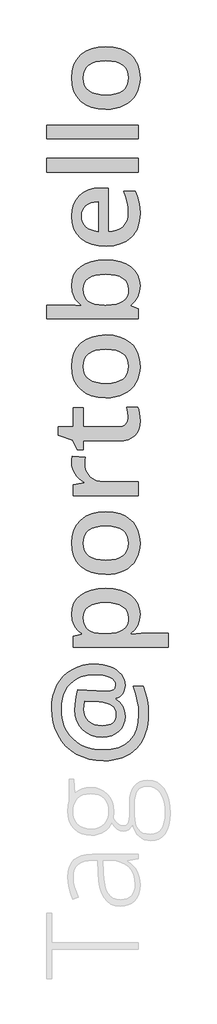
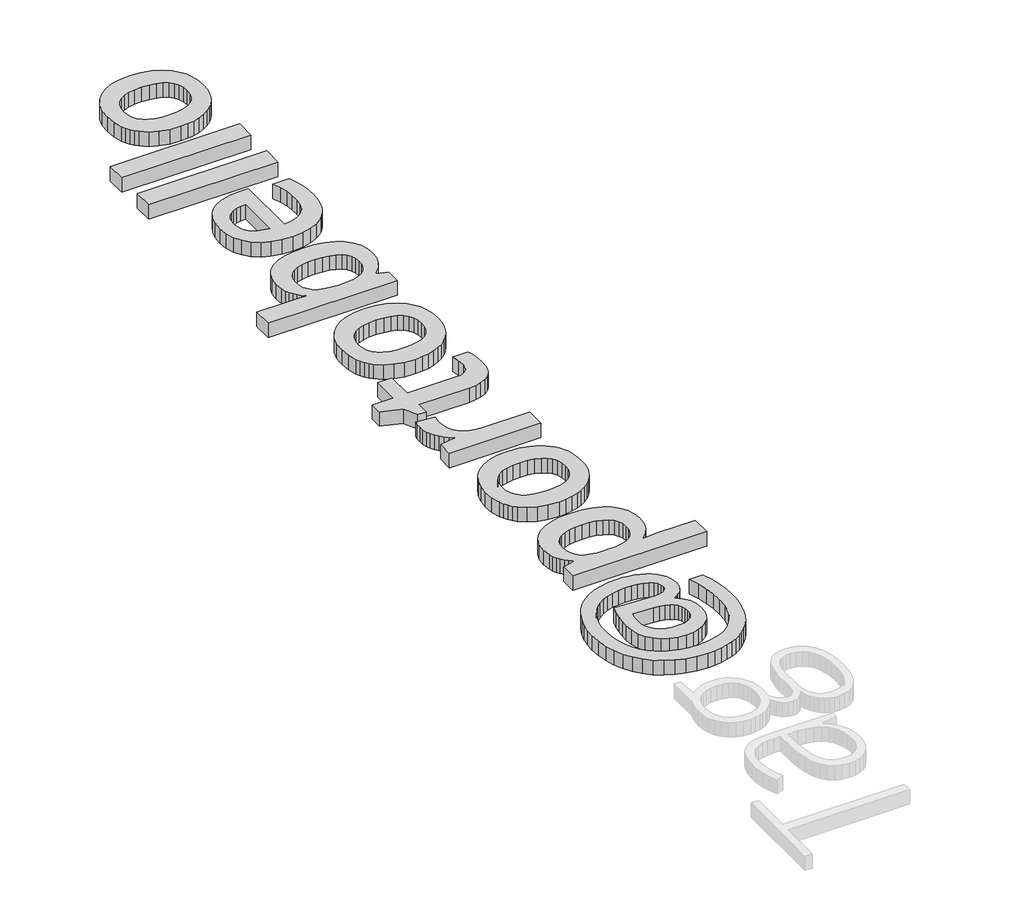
# One storey, part 4 of 10: 1 proxy.
"""IFC4 building model written with IfcOpenShell, lengths in millimetres."""

from ifc_helpers import new_model, si_unit, origin, origin_with_axes, place, context, project, spatial, polyline, outline, extrude, element, save

model = new_model("IFC4")

# Units and contexts
model_context = context("Model", 3, world=origin())
ifc_project = project(units=[si_unit("LENGTHUNIT", "METRE", prefix="MILLI")], contexts=[model_context])

# Site, building, storey
site = spatial("IfcSite", under=ifc_project)
building = spatial("IfcBuilding", under=site)
storey = spatial("IfcBuildingStorey", under=building, Name="PORTOBELLO - SHOWROOM", Elevation=0.0)

# Proxy
placement = place(None, origin())
element("IfcBuildingElementProxy", 1, Name="80mm OpenSans Bold", ObjectType="80mm OpenSans Bold", at=placement, inside=storey, context=model_context, shape_type="SweptSolid", body=[
    extrude(outline(polyline([(159082.6675229, -9131.2902882), (159120.7731376, -9132.8376481), (159157.2112091, -9137.4797277), (159191.9817375, -9145.2165271), (159225.0847226, -9156.0480462), (159255.5662098, -9169.6888497), (159282.4722441, -9185.8535023), (159305.8028254, -9204.542004), (159325.5579539, -9225.7543549), (159341.2794306, -9249.0999592), (159352.5090568, -9274.1882211), (159359.2468326, -9301.0191408), (159361.4927578, -9329.5927182), (159355.7840515, -9370.2146706), (159348.6481686, -9388.3623475), (159338.6579326, -9405.0678249), (159326.2339849, -9419.7452093), (159311.796967, -9431.8086072), (159295.3468791, -9441.2580184), (159276.883721, -9448.0934431), (159276.883721, -9454.8237074), (159313.9001746, -9484.9897134), (159340.3404986, -9521.6456171), (159356.204693, -9564.0102272), (159361.4927578, -9611.3023521), (159357.9398393, -9653.9674204), (159347.2810837, -9691.8251571), (159329.516491, -9724.8755621), (159304.6460612, -9753.1186354), (159273.7063753, -9775.728117), (159237.734014, -9791.8777467), (159196.7289774, -9801.5675246), (159150.6912656, -9804.7974505), (159097.5477166, -9800.5159208), (159049.6471637, -9787.6713316), (159006.9896069, -9766.2636829), (158969.5750462, -9736.2929747), (158939.1311163, -9699.1112691), (158917.3854521, -9656.070628), (158904.3380536, -9607.1710515), (158899.9889207, -9552.4125396), (158901.8217159, -9508.0949511), (158907.3201015, -9459.2704891), (158916.0634359, -9411.0469437), (158927.6310776, -9368.5321045), (159178.8141556, -9380.7908002), (159191.5535845, -9380.7908002), (159229.4113211, -9377.1853014), (159256.4525616, -9366.3688053), (159265.9169957, -9358.2564331), (159272.6773059, -9348.3413116), (159278.0855539, -9323.1028205), (159274.6227729, -9302.3486685), (159264.2344297, -9283.8329302), (159246.9205243, -9267.5556058), (159222.6810568, -9253.5166951), (159193.07841, -9242.2119543), (159159.6749666, -9234.1371394), (159122.4707266, -9229.2922505), (159081.46569, -9227.6772875), (159036.3744215, -9230.0959763), (158994.1224833, -9237.3520425), (158954.7098754, -9249.4454861), (158918.1365977, -9266.3763072), (158884.9960552, -9287.768933), (158855.881653, -9313.2477907), (158830.793391, -9342.8128802), (158809.7312692, -9376.4642017), (158793.0633491, -9413.4656324), (158781.1576918, -9453.0810497), (158774.0142975, -9495.3104535), (158771.633166, -9540.1538439), (158774.6227254, -9597.1282353), (158783.5914035, -9650.2717842), (158798.5392003, -9699.5844908), (158819.4661158, -9745.0663549), (158845.9439971, -9786.0563686), (158877.5446911, -9821.8935237), (158914.268198, -9852.5778201), (158956.1145176, -9878.109258), (159002.3024586, -9898.1948905), (159052.0508296, -9912.5417708), (159105.3596305, -9921.149899), (159162.2288615, -9924.0192751), (159236.4044864, -9918.6636072), (159301.4912498, -9902.5966035), (159330.6263086, -9890.5463507), (159357.489152, -9875.818264), (159382.07978, -9858.4123433), (159404.3981927, -9838.3285887), (159424.2566037, -9815.7435193), (159441.4672265, -9790.8336544), (159456.0300612, -9763.598994), (159467.9451078, -9734.039538), (159483.8318365, -9667.9462394), (159489.1274128, -9592.5537588), (159486.032693, -9530.8396389), (159476.7485338, -9467.8035028), (159461.2749351, -9403.4453505), (159439.6118969, -9337.765182), (159529.7493651, -9337.765182), (159550.3607995, -9396.9854986), (159565.0832526, -9458.789756), (159573.9167245, -9523.1779541), (159576.8612152, -9590.1500929), (159575.165504, -9639.7651356), (159570.0783707, -9686.5746495), (159561.5998151, -9730.5786348), (159549.7298372, -9771.7770913), (159534.4684372, -9810.1700192), (159515.8156148, -9845.7574184), (159493.7713703, -9878.5392888), (159468.3357035, -9908.5156306), (159439.8654086, -9935.3033594), (159408.7172797, -9958.5193911), (159374.8913169, -9978.1637255), (159338.3875202, -9994.2363628), (159299.2058895, -10006.7373029), (159257.3464248, -10015.6665459), (159212.8091262, -10021.0240917), (159165.5939936, -10022.8099402), (159096.5261586, -10018.949052), (159031.3793035, -10007.3663874), (158970.1534283, -9988.0619463), (158912.8485329, -9961.0357287), (158860.7490762, -9927.1590636), (158815.1395173, -9887.3032797), (158776.0198561, -9841.4683772), (158743.3900927, -9789.6543559), (158717.6783799, -9733.0330029), (158699.3128707, -9672.7761054), (158688.2935652, -9608.8836634), (158684.6204634, -9541.3556768), (158687.6851373, -9483.1343838), (158696.8791591, -9428.1730626), (158712.2025287, -9376.4717132), (158733.6552461, -9328.0303355), (158760.7716011, -9283.8479531), (158793.0858835, -9244.9235898), (158830.5980931, -9211.2572454), (158873.3082301, -9182.84892), (158920.3750114, -9160.2920186), (158970.957154, -9144.1799462), (159025.0546578, -9134.5127027), (159082.6675229, -9131.2902882)]), holes=[polyline([(159152.6141982, -9699.5168877), (159182.0215472, -9697.9282148), (159207.5079164, -9693.1621962), (159229.0733056, -9685.2188318), (159246.717715, -9674.0981216), (159260.4411445, -9659.8000658), (159270.2435942, -9642.3246641), (159276.125064, -9621.6719167), (159278.0855539, -9597.8418236), (159275.6217965, -9572.5582637), (159268.2305241, -9550.309332), (159255.9117368, -9531.0950284), (159238.6654345, -9514.9153528), (159216.4916173, -9501.7703054), (159189.3902852, -9491.659886), (159157.3614382, -9484.5840948), (159120.4050763, -9480.5429316), (158991.808955, -9473.8126673), (158984.9585074, -9510.1080212), (158982.6750249, -9548.8070409), (158985.5368895, -9582.420805), (158994.1224833, -9612.1135894), (159008.4318064, -9637.8853938), (159028.4648587, -9659.7362184), (159053.3953801, -9677.1402612), (159082.3971105, -9689.5717204), (159115.4700499, -9697.0305958), (159152.6141982, -9699.5168877)])]), origin_with_axes(), (0.0, 0.0, 1.0), 100.0),
    extrude(outline(polyline([(159499.943909, -8672.6708501), (159494.7459816, -8726.2275291), (159479.1521996, -8773.4445395), (159453.162563, -8814.3218814), (159416.7770717, -8848.8595546), (159416.7770717, -8856.5512852), (159510.7604052, -8848.8595546), (159761.46275, -8848.8595546), (159761.46275, -8977.6960424), (158884.6054595, -8977.6960424), (158884.6054595, -8873.3769459), (158961.7631323, -8855.3494523), (158961.7631323, -8848.8595546), (158940.073804, -8833.0291617), (158921.2763861, -8815.3434393), (158905.3708787, -8795.8023874), (158892.3572817, -8774.4060059), (158882.2355952, -8751.1542948), (158875.0058191, -8726.0472542), (158869.2219982, -8670.2671843), (158874.3823683, -8617.4616508), (158889.8634785, -8570.815511), (158915.6653287, -8530.3287649), (158951.7879191, -8496.0014125), (158997.2247145, -8468.6597138), (159050.9691799, -8449.129929), (159113.0213153, -8437.4120581), (159183.3811207, -8433.5061012), (159253.9136896, -8437.4796612), (159316.2437488, -8449.4003414), (159370.3712985, -8469.2681417), (159416.2963385, -8497.0830621), (159452.8921506, -8531.8986592), (159479.0320164, -8572.7684895), (159494.7159358, -8619.6925532), (159499.943909, -8672.6708501)]), holes=[polyline([(158976.9062269, -8704.1588723), (158979.7004884, -8739.2448818), (158988.083273, -8769.2681702), (159002.0545805, -8794.2287374), (159021.6144111, -8814.1265835), (159047.3035896, -8829.3222584), (159079.6629406, -8840.1763118), (159118.6924644, -8846.6887439), (159164.3921607, -8848.8595546), (159183.3811207, -8848.8595546), (159234.7294317, -8846.7112783), (159278.4461038, -8840.2664493), (159314.5311369, -8829.5250677), (159342.984531, -8814.4871334), (159364.5424088, -8794.5667529), (159379.940893, -8769.1780327), (159389.1799835, -8738.3209728), (159392.2596803, -8701.9955731), (159388.8494794, -8671.07091), (159378.6188768, -8643.9169977), (159361.5678724, -8620.5338362), (159337.6964662, -8600.9214254), (159307.5304602, -8585.4102694), (159271.5956562, -8574.3308723), (159229.8920543, -8567.683234), (159182.4196544, -8565.4673546), (159134.7895139, -8567.6682111), (159093.33379, -8574.2707807), (159058.0524826, -8585.2750632), (159028.9455919, -8600.6810588), (159006.1783697, -8620.3535613), (158989.9160681, -8644.1573643), (158980.1586872, -8672.092468), (158976.9062269, -8704.1588723)])]), origin_with_axes(), (0.0, 0.0, 1.0), 100.0),
    extrude(outline(polyline([(159183.3811207, -7725.3861511), (159253.9136896, -7730.1934827), (159316.2437488, -7744.6154777), (159370.3712985, -7768.6521358), (159416.2963385, -7802.3034573), (159435.9012378, -7822.4754715), (159452.8921506, -7844.5328611), (159467.2690768, -7868.4756261), (159479.0320164, -7894.3037665), (159494.7159358, -7951.6161733), (159499.943909, -8016.4700817), (159497.5327317, -8058.1211035), (159490.2991999, -8097.263299), (159478.2433135, -8133.8966684), (159461.3650726, -8168.0212115), (159439.9874697, -8198.9984548), (159414.4334975, -8226.1899243), (159384.7031559, -8249.5956203), (159350.7964449, -8269.2155425), (159313.3368155, -8284.7266985), (159272.9477183, -8295.8060956), (159229.6291533, -8302.4537339), (159183.3811207, -8304.6696133), (159113.411911, -8299.899839), (159051.5700964, -8285.5905159), (158997.8556768, -8261.7416441), (158952.2686523, -8228.3532236), (158932.8045927, -8208.2957591), (158915.9357411, -8186.2815603), (158901.6620975, -8162.3106274), (158889.9836618, -8136.3829602), (158874.4124141, -8078.6574233), (158869.2219982, -8013.1049496), (158874.5401089, -7950.2115311), (158890.4944407, -7894.213629), (158917.0849939, -7845.1112432), (158954.3117682, -7802.9043737), (159000.5372665, -7768.9901513), (159054.1239913, -7744.7657068), (159115.0719427, -7730.23104), (159183.3811207, -7725.3861511)]), holes=[polyline([(159183.3811207, -8171.9872601), (159232.3370331, -8169.5235027), (159274.7654905, -8162.1322303), (159310.666493, -8149.813443), (159340.0400404, -8132.5671407), (159362.8861329, -8110.3933236), (159379.2047703, -8083.2919915), (159388.9959528, -8051.2631444), (159392.2596803, -8014.3067825), (159388.9959528, -7977.688436), (159379.2047703, -7945.9525358), (159362.8861329, -7919.0990817), (159340.0400404, -7897.1280738), (159310.666493, -7880.0395121), (159274.7654905, -7867.8333967), (159232.3370331, -7860.5097274), (159183.3811207, -7858.0685043), (159134.9885675, -7860.5247503), (159093.0483547, -7867.8934883), (159057.5604823, -7880.1747183), (159028.5249504, -7897.3684404), (159005.9417588, -7919.4746545), (158989.8109078, -7946.4933606), (158980.1323971, -7978.4245587), (158976.9062269, -8015.2682488), (158980.2413132, -8053.6592988), (158990.2465722, -8086.3867112), (159006.9220038, -8113.450486), (159030.2676081, -8134.8506233), (159059.8477206, -8151.0979019), (159095.2266768, -8162.7031009), (159136.4044769, -8169.6662203), (159183.3811207, -8171.9872601)])]), origin_with_axes(), (0.0, 0.0, 1.0), 100.0),
    extrude(outline(polyline([(158869.2219982, -7274.6988102), (158870.6041061, -7240.0259307), (158874.7504296, -7211.9631323), (158994.9337205, -7224.221828), (158989.8860223, -7251.6236183), (158988.2034563, -7279.986875), (158991.3432447, -7316.0418622), (159000.7626102, -7348.4913508), (159016.4615525, -7377.3353406), (159038.4400719, -7402.5738317), (159065.4362436, -7423.0801057), (159096.1881431, -7437.7274443), (159130.6957705, -7446.5158474), (159168.9591258, -7449.4453152), (159484.5604477, -7449.4453152), (159484.5604477, -7578.281803), (158884.6054595, -7578.281803), (158884.6054595, -7477.3278387), (158986.7612568, -7460.2618113), (158986.7612568, -7453.7719136), (158961.1171471, -7437.9753223), (158938.2672989, -7419.9102714), (158918.2117122, -7399.5767609), (158900.950387, -7376.9747907), (158887.0692169, -7352.780392), (158877.1540954, -7327.6695956), (158871.2050225, -7301.6424017), (158869.2219982, -7274.6988102)])), origin_with_axes(), (0.0, 0.0, 1.0), 100.0),
    extrude(outline(polyline([(159392.2596803, -6855.739858), (159388.5940899, -6807.8468166), (159377.5973188, -6759.8335919), (159477.3494503, -6759.8335919), (159486.1829222, -6784.5913498), (159493.4540113, -6815.5986389), (159498.3214345, -6850.33161), (159499.943909, -6886.2664139), (159496.9092809, -6929.6450705), (159487.8053966, -6967.2399062), (159472.6322561, -6999.050921), (159451.3898594, -7025.0781149), (159424.0782066, -7045.321488), (159390.6972975, -7059.7810402), (159351.2471323, -7068.4567715), (159305.7277109, -7071.3486819), (158976.9062269, -7071.3486819), (158976.9062269, -7154.9962524), (158922.823746, -7154.9962524), (158878.1155618, -7065.3395174), (158746.1543084, -7021.3524329), (158746.1543084, -6941.7910943), (158884.6054595, -6941.7910943), (158884.6054595, -6766.083123), (158976.9062269, -6766.083123), (158976.9062269, -6941.7910943), (159301.4011124, -6941.7910943), (159323.0866849, -6940.3113376), (159341.7526523, -6935.8720673), (159357.3990145, -6928.4732834), (159370.0257715, -6918.114986), (159379.7531066, -6905.3379999), (159386.7012031, -6890.6831499), (159392.2596803, -6855.739858)])), origin_with_axes(), (0.0, 0.0, 1.0), 100.0),
    extrude(outline(polyline([(159183.3811207, -6094.73926), (159253.9136896, -6099.5465916), (159316.2437488, -6113.9685865), (159370.3712985, -6138.0052447), (159416.2963385, -6171.6565662), (159435.9012378, -6191.8285804), (159452.8921506, -6213.88597), (159467.2690768, -6237.828735), (159479.0320164, -6263.6568754), (159494.7159358, -6320.9692822), (159499.943909, -6385.8231906), (159497.5327317, -6427.4742123), (159490.2991999, -6466.6164079), (159478.2433135, -6503.2497772), (159461.3650726, -6537.3743204), (159439.9874697, -6568.3515636), (159414.4334975, -6595.5430332), (159384.7031559, -6618.9487291), (159350.7964449, -6638.5686514), (159313.3368155, -6654.0798073), (159272.9477183, -6665.1592045), (159229.6291533, -6671.8068428), (159183.3811207, -6674.0227222), (159113.411911, -6669.2529478), (159051.5700964, -6654.9436247), (158997.8556768, -6631.094753), (158952.2686523, -6597.7063324), (158932.8045927, -6577.6488679), (158915.9357411, -6555.6346692), (158901.6620975, -6531.6637362), (158889.9836618, -6505.7360691), (158874.4124141, -6448.0105322), (158869.2219982, -6382.4580584), (158874.5401089, -6319.56464), (158890.4944407, -6263.5667379), (158917.0849939, -6214.4643521), (158954.3117682, -6172.2574826), (159000.5372665, -6138.3432602), (159054.1239913, -6114.1188156), (159115.0719427, -6099.5841489), (159183.3811207, -6094.73926)]), holes=[polyline([(159183.3811207, -6541.340369), (159232.3370331, -6538.8766115), (159274.7654905, -6531.4853392), (159310.666493, -6519.1665518), (159340.0400404, -6501.9202496), (159362.8861329, -6479.7464324), (159379.2047703, -6452.6451003), (159388.9959528, -6420.6162533), (159392.2596803, -6383.6598913), (159388.9959528, -6347.0415449), (159379.2047703, -6315.3056446), (159362.8861329, -6288.4521906), (159340.0400404, -6266.4811827), (159310.666493, -6249.392621), (159274.7654905, -6237.1865055), (159232.3370331, -6229.8628362), (159183.3811207, -6227.4216131), (159134.9885675, -6229.8778591), (159093.0483547, -6237.2465972), (159057.5604823, -6249.5278272), (159028.5249504, -6266.7215493), (159005.9417588, -6288.8277633), (158989.8109078, -6315.8464694), (158980.1323971, -6347.7776675), (158976.9062269, -6384.6213577), (158980.2413132, -6423.0124076), (158990.2465722, -6455.7398201), (159006.9220038, -6482.8035949), (159030.2676081, -6504.2037321), (159059.8477206, -6520.4510108), (159095.2266768, -6532.0562098), (159136.4044769, -6539.0193292), (159183.3811207, -6541.340369)])]), origin_with_axes(), (0.0, 0.0, 1.0), 100.0),
    extrude(outline(polyline([(158869.2219982, -5639.7253206), (158874.3823683, -5586.9197871), (158889.8634785, -5540.2736473), (158915.6653287, -5499.7869012), (158951.7879191, -5465.4595487), (158997.2247145, -5438.1178501), (159050.9691799, -5418.5880653), (159113.0213153, -5406.8701944), (159183.3811207, -5402.9642375), (159254.1089874, -5406.9152632), (159316.544207, -5418.7683402), (159370.6867796, -5438.5234687), (159416.5367051, -5466.1806485), (159453.0273568, -5500.8685508), (159479.092108, -5541.7158468), (159494.7309587, -5588.7225365), (159499.943909, -5641.8886198), (159494.7459816, -5695.5504592), (159479.1521996, -5742.8425842), (159453.162563, -5783.7649947), (159416.7770717, -5818.3176909), (159416.7770717, -5826.9708878), (159484.5604477, -5850.5268128), (159484.5604477, -5947.1541787), (158638.4700797, -5947.1541787), (158638.4700797, -5818.3176909), (158838.4550758, -5818.3176909), (158904.4357025, -5820.4809901), (158960.0805662, -5823.6057557), (158960.0805662, -5818.3176909), (158938.7855893, -5802.2769773), (158920.3299427, -5784.4410257), (158904.7136263, -5764.8098363), (158891.9366402, -5743.383409), (158881.9989844, -5720.1617437), (158874.9006587, -5695.1448406), (158869.2219982, -5639.7253206)]), holes=[polyline([(158976.9062269, -5673.6170086), (158979.7530686, -5709.1612169), (158988.2935937, -5739.3572687), (159002.5278022, -5764.2051641), (159022.4556942, -5783.7049031), (159049.0537587, -5798.4874479), (159083.2984852, -5809.1837608), (159125.1898735, -5815.7938418), (159174.7279238, -5818.3176909), (159183.3811207, -5818.3176909), (159234.7294317, -5816.1694145), (159278.4461038, -5809.7245856), (159314.5311369, -5798.9832039), (159342.984531, -5783.9452697), (159364.5424088, -5764.0248892), (159379.940893, -5738.636169), (159389.1799835, -5707.779109), (159392.2596803, -5671.4537094), (159388.8870367, -5639.9431528), (159378.7691059, -5612.4737593), (159361.9058879, -5589.0455291), (159338.2973827, -5569.658462), (159308.3191631, -5554.4627871), (159272.3468018, -5543.6087337), (159230.3802989, -5537.0963016), (159182.4196544, -5534.9254909), (159134.2524448, -5537.0925459), (159092.5075299, -5543.5937107), (159057.1849095, -5554.4289856), (159028.2845838, -5569.5983703), (159005.8065526, -5589.101865), (158989.7508161, -5612.9394696), (158980.1173742, -5641.1111841), (158976.9062269, -5673.6170086)])]), origin_with_axes(), (0.0, 0.0, 1.0), 100.0),
    extrude(outline(polyline([(159499.943909, -4974.1502555), (159494.768516, -5040.9646538), (159479.2423371, -5100.0722985), (159467.5977029, -5126.7360883), (159453.3653723, -5151.4731898), (159436.5453451, -5174.2836028), (159417.1376215, -5195.1673275), (159371.8210094, -5230.0279933), (159318.6774604, -5254.9284689), (159257.7069747, -5269.8687542), (159188.9095521, -5274.8488493), (159118.3769832, -5270.2293041), (159055.8065574, -5256.3706684), (159001.1982746, -5233.2729421), (158954.5521348, -5200.9361254), (158917.2202001, -5160.5169824), (158890.5545324, -5113.1722772), (158874.5551318, -5058.9020099), (158869.2219982, -4997.7061805), (158873.7138487, -4940.9871786), (158887.1894002, -4890.5327308), (158909.6486527, -4846.342837), (158941.0916062, -4808.4174973), (158980.4065653, -4777.9735674), (159026.4818344, -4756.2279032), (159079.3174137, -4743.1805047), (159138.9133031, -4738.8313719), (159207.6581455, -4738.8313719), (159207.6581455, -5142.1664962), (159249.5570453, -5138.2004476), (159286.3181094, -5128.9463342), (159317.9413378, -5114.404156), (159344.4267305, -5094.573913), (159365.3536461, -5069.816155), (159380.3014429, -5040.4914321), (159389.2701209, -5006.599744), (159392.2596803, -4968.1410909), (159389.7358312, -4916.3721384), (159382.1642839, -4868.2687762), (159368.7037553, -4820.2855973), (159348.5129624, -4768.8771946), (159456.4375577, -4768.8771946), (159476.7485338, -4816.259457), (159490.0888791, -4864.1825443), (159497.4801515, -4915.7712219), (159499.943909, -4974.1502555)]), holes=[polyline([(158961.5227657, -4997.9465471), (158963.9790117, -5026.9633004), (158971.3477497, -5052.9604485), (158983.6289797, -5075.9379914), (159000.8227018, -5095.8959292), (159022.7185951, -5112.4887348), (159049.1063389, -5125.3708813), (159079.9859332, -5134.5423687), (159115.357378, -5140.0031969), (159115.357378, -4865.5045605), (159079.7906354, -4868.216196), (159048.8058807, -4875.1492696), (159022.403114, -4886.3037813), (159000.5823352, -4901.6797311), (158983.4937735, -4920.8114087), (158971.2876581, -4943.2331039), (158963.9639888, -4968.9448167), (158961.5227657, -4997.9465471)])]), origin_with_axes(), (0.0, 0.0, 1.0), 100.0),
    extrude(outline(polyline([(159484.5604477, -4465.0538352), (159484.5604477, -4593.890323), (158638.4700797, -4593.890323), (158638.4700797, -4465.0538352), (159484.5604477, -4465.0538352)])), origin_with_axes(), (0.0, 0.0, 1.0), 100.0),
    extrude(outline(polyline([(159484.5604477, -4157.3846104), (159484.5604477, -4286.2210983), (158638.4700797, -4286.2210983), (158638.4700797, -4157.3846104), (159484.5604477, -4157.3846104)])), origin_with_axes(), (0.0, 0.0, 1.0), 100.0),
    extrude(outline(polyline([(159183.3811207, -3433.4004659), (159253.9136896, -3438.2077976), (159316.2437488, -3452.6297925), (159370.3712985, -3476.6664507), (159416.2963385, -3510.3177721), (159435.9012378, -3530.4897864), (159452.8921506, -3552.547176), (159467.2690768, -3576.489941), (159479.0320164, -3602.3180813), (159494.7159358, -3659.6304882), (159499.943909, -3724.4843965), (159497.5327317, -3766.1354183), (159490.2991999, -3805.2776139), (159478.2433135, -3841.9109832), (159461.3650726, -3876.0355264), (159439.9874697, -3907.0127696), (159414.4334975, -3934.2042392), (159384.7031559, -3957.6099351), (159350.7964449, -3977.2298573), (159313.3368155, -3992.7410133), (159272.9477183, -4003.8204105), (159229.6291533, -4010.4680487), (159183.3811207, -4012.6839282), (159113.411911, -4007.9141538), (159051.5700964, -3993.6048307), (158997.8556768, -3969.7559589), (158952.2686523, -3936.3675384), (158932.8045927, -3916.3100739), (158915.9357411, -3894.2958751), (158901.6620975, -3870.3249422), (158889.9836618, -3844.3972751), (158874.4124141, -3786.6717381), (158869.2219982, -3721.1192644), (158874.5401089, -3658.225846), (158890.4944407, -3602.2279439), (158917.0849939, -3553.1255581), (158954.3117682, -3510.9186886), (159000.5372665, -3477.0044662), (159054.1239913, -3452.7800216), (159115.0719427, -3438.2453549), (159183.3811207, -3433.4004659)]), holes=[polyline([(159183.3811207, -3880.001575), (159232.3370331, -3877.5378175), (159274.7654905, -3870.1465451), (159310.666493, -3857.8277578), (159340.0400404, -3840.5814556), (159362.8861329, -3818.4076384), (159379.2047703, -3791.3063063), (159388.9959528, -3759.2774593), (159392.2596803, -3722.3210973), (159388.9959528, -3685.7027509), (159379.2047703, -3653.9668506), (159362.8861329, -3627.1133965), (159340.0400404, -3605.1423887), (159310.666493, -3588.053827), (159274.7654905, -3575.8477115), (159232.3370331, -3568.5240422), (159183.3811207, -3566.0828191), (159134.9885675, -3568.5390651), (159093.0483547, -3575.9078031), (159057.5604823, -3588.1890332), (159028.5249504, -3605.3827552), (159005.9417588, -3627.4889693), (158989.8109078, -3654.5076754), (158980.1323971, -3686.4388735), (158976.9062269, -3723.2825636), (158980.2413132, -3761.6736136), (158990.2465722, -3794.401026), (159006.9220038, -3821.4648009), (159030.2676081, -3842.8649381), (159059.8477206, -3859.1122167), (159095.2266768, -3870.7174158), (159136.4044769, -3877.6805352), (159183.3811207, -3880.001575)])]), origin_with_axes(), (0.0, 0.0, 1.0), 100.0),
])

save(model, "model.ifc")
